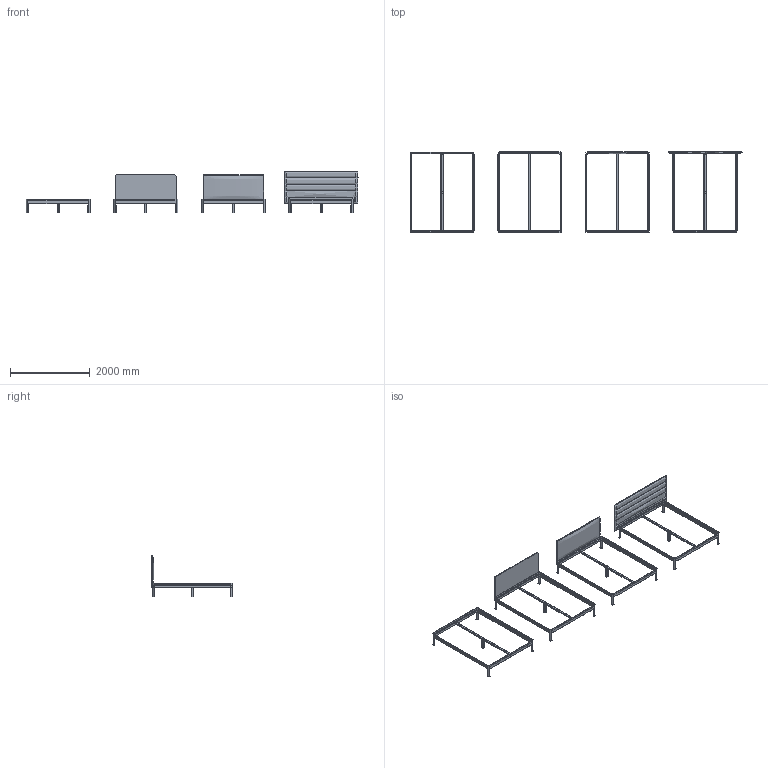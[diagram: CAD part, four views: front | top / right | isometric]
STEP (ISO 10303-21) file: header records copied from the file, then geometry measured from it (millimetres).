
FILE_DESCRIPTION(/* description */ (''),/* implementation_level */ '2;1');
FILE_NAME(/* name */ 'Heia_160x200',/* time_stamp */ '2025-10-15T11:15:03+02:00',/* author */ (''),/* organization */ (''),/* preprocessor_version */ 'ST-DEVELOPER v16.5',/* originating_system */ 'Rhino 7.38',/* authorisation */ '');
FILE_SCHEMA (('CONFIG_CONTROL_DESIGN'));
Length unit declared in the file: millimetre
Products named in the file (1): Document
Bounding box: 8332.28 x 2033.49 x 1051.22 mm (x, y, z)
Volume: 156117928.4 mm3; surface area: 19858448.4 mm2
Topology: 62 solids, 63 shells, 1706 faces, 4160 edges, 2566 vertices
Faces by surface type: plane 712, cylinder 668, bspline 326
Entity records: 58223 total; most frequent: CARTESIAN_POINT 31763, ORIENTED_EDGE 8294, EDGE_CURVE 4152, VERTEX_POINT 2566, B_SPLINE_CURVE_WITH_KNOTS 1837, EDGE_LOOP 1746, ADVANCED_FACE 1706, FACE_OUTER_BOUND 1706
